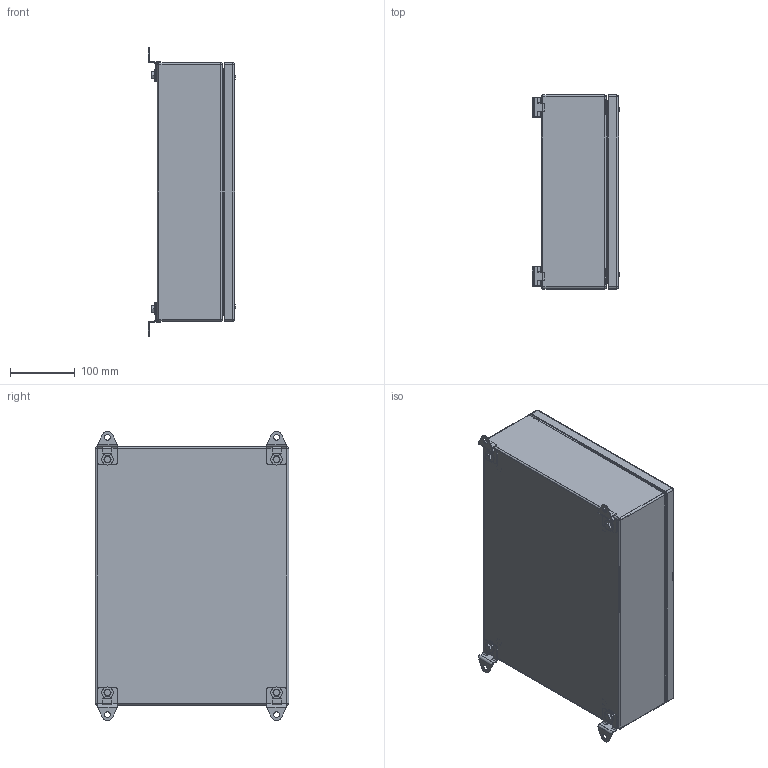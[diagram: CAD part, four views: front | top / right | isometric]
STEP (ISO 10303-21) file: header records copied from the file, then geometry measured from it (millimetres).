
FILE_DESCRIPTION(('STEP AP242'), '1');
FILE_NAME('ÊÊ Êîðîáêà êëåììíàÿ', '', ('UNSPECIFIED'), ('UNSPECIFIED'), 'C3D Converter', 'C3D Toolkit', '');
FILE_SCHEMA(('AP242_MANAGED_MODEL_BASED_3D_ENGINEERING_MIM_LF { 1 0 10303 442 1 1 4 }'));
Length unit declared in the file: millimetre
Products named in the file (22): КК; 510; 520; 521; 530; 531; 540; 541; 203-0655.61; НК.КК; 551;  202-1103.15-00530; 501
Assembly tree (53 placements, depth 4):
  КК
    510
      520
        521
        (unnamed)
        (unnamed)  x4
      530  x4
        531
        (unnamed)
    540
      541
      (unnamed)
      203-0655.61  x4
    НК.КК  x4
      551
      (unnamed)
      (unnamed)
      (unnamed)
      (unnamed)
      (unnamed)
     202-1103.15-00530  x4
    501
    (unnamed)  x4
    (unnamed)  x4
    (unnamed)  x4
    (unnamed)  x4
Bounding box: 135.19 x 300 x 448 mm (x, y, z)
Volume: 953978.3 mm3; surface area: 1153568.1 mm2
Topology: 70 solids, 70 shells, 1114 faces, 2514 edges, 1532 vertices
Faces by surface type: plane 640, cylinder 294, cone 102, torus 38, sphere 24, bspline 16
Full cylindrical faces by diameter (mm): 4 x4, 4.134 x4, 4.917 x8, 5 x4, 5.2 x8, 5.8 x4, 6 x10, 6.4 x12, 6.5 x8, 6.6 x4, 6.647 x4, 8 x4, 9 x4, 11 x4, 11.5 x4, 12 x4, 18 x8
Entity records: 18543 total; most frequent: CARTESIAN_POINT 6835, DIRECTION 2073, ORIENTED_EDGE 1820, EDGE_CURVE 910, AXIS2_PLACEMENT_3D 777, VERTEX_POINT 587, EDGE_LOOP 567, LINE 519
